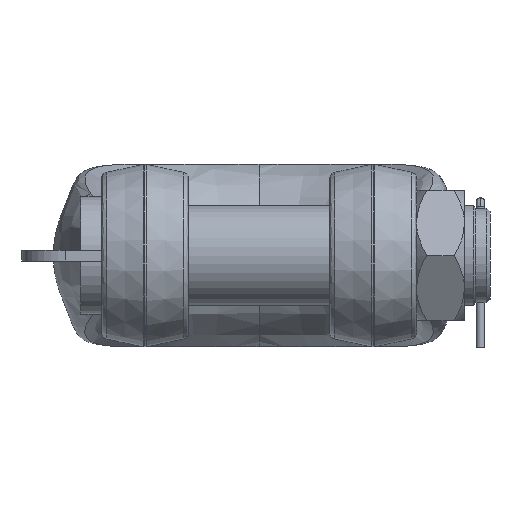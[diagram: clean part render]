
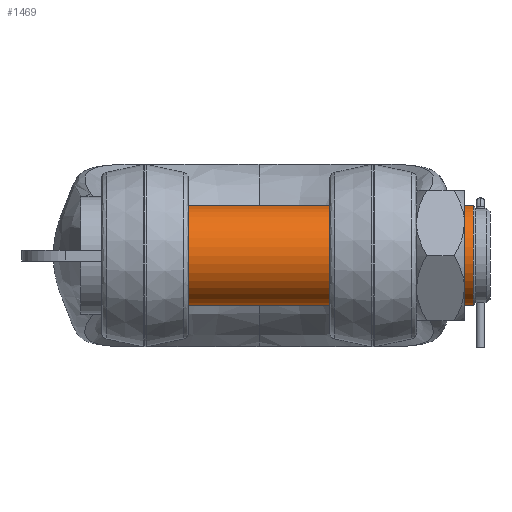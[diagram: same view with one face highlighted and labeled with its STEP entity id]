
A CAD part, front view. The second image highlights one B-rep face of the part: STEP entity #1469.
In plain terms, the highlighted cylindrical face has radius 115 mm (diameter 230 mm), a partial arc.
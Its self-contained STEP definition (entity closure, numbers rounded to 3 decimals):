
#1469=ADVANCED_FACE('NONE',(#3009),#3010,.T.);
#3009=FACE_OUTER_BOUND('',#67620,.T.);
#3010=CYLINDRICAL_SURFACE('',#67621,115.0);
#67620=EDGE_LOOP('',(#71257,#71258,#71259,#71260));
#67621=AXIS2_PLACEMENT_3D('',#71261,#71262,#71263);
#71257=ORIENTED_EDGE('',*,*,#73330,.F.);
#71258=ORIENTED_EDGE('',*,*,#73371,.T.);
#71259=ORIENTED_EDGE('',*,*,#73332,.T.);
#71260=ORIENTED_EDGE('',*,*,#73373,.T.);
#71261=CARTESIAN_POINT('',(-362.5,0.0,0.0));
#71262=DIRECTION('',(-1.0,-0.0,0.0));
#71263=DIRECTION('',(0.0,0.,-1.0));
#73330=EDGE_CURVE('NONE',#75819,#75825,#75826,.T.);
#73332=EDGE_CURVE('NONE',#75821,#75827,#75829,.T.);
#73371=EDGE_CURVE('NONE',#75819,#75821,#75880,.T.);
#73373=EDGE_CURVE('NONE',#75827,#75825,#75882,.T.);
#75819=VERTEX_POINT('NONE',#102483);
#75821=VERTEX_POINT('NONE',#102485);
#75825=VERTEX_POINT('NONE',#102489);
#75826=LINE('',#102490,#102491);
#75827=VERTEX_POINT('NONE',#102492);
#75829=LINE('',#102494,#102495);
#75880=CIRCLE('',#102985,115.0);
#75882=CIRCLE('',#102987,115.0);
#102483=CARTESIAN_POINT('',(-358.5,0.,115.0));
#102485=CARTESIAN_POINT('',(-358.5,0.,-115.0));
#102489=CARTESIAN_POINT('',(492.5,0.,115.0));
#102490=CARTESIAN_POINT('',(-362.5,0.,115.0));
#102491=VECTOR('',#104640,1000.0);
#102492=CARTESIAN_POINT('',(492.5,0.,-115.0));
#102494=CARTESIAN_POINT('',(-362.5,0.,-115.0));
#102495=VECTOR('',#104644,1000.0);
#102985=AXIS2_PLACEMENT_3D('',#104685,#104686,#104687);
#102987=AXIS2_PLACEMENT_3D('',#104688,#104689,#104690);
#104640=DIRECTION('',(1.0,0.0,0.0));
#104644=DIRECTION('',(1.0,0.0,0.0));
#104685=CARTESIAN_POINT('',(-358.5,0.0,0.0));
#104686=DIRECTION('',(1.0,0.0,0.0));
#104687=DIRECTION('',(0.0,0.,-1.0));
#104688=CARTESIAN_POINT('',(492.5,0.0,0.0));
#104689=DIRECTION('',(-1.0,-0.0,0.0));
#104690=DIRECTION('',(0.0,0.,-1.0));
